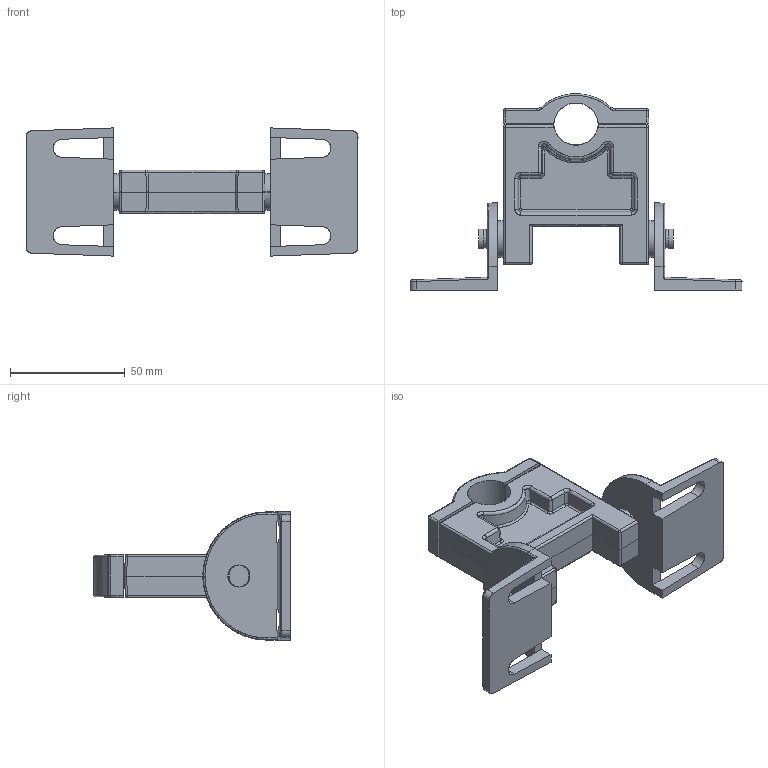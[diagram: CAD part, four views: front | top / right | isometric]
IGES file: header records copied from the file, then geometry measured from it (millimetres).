
Start section: SolidWorks IGES file using analytic representation for surfaces
Global section: file name: W:\Teams\Mech\SE data\Product_Lines\Sensors\Website models\LSAHC001\IGES\LSAHC001.IGS; native system: SolidWorks 2022; preprocessor: SolidWorks 2022; author: joseph.cirabisi; date: 240812.105407; units: millimetre
Bounding box: 144.78 x 85.65 x 55.88 mm (x, y, z)
Surface area: 34227.9 mm2 (no closed solid volume)
Topology: 0 solids, 0 shells, 293 faces, 3360 edges, 3340 vertices
Faces by surface type: revolution 159, bspline 134
